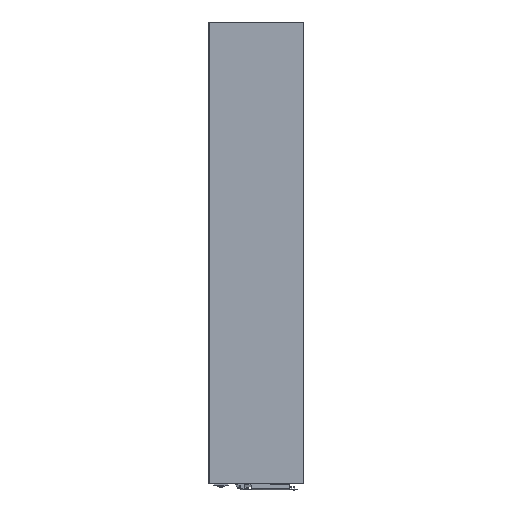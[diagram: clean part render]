
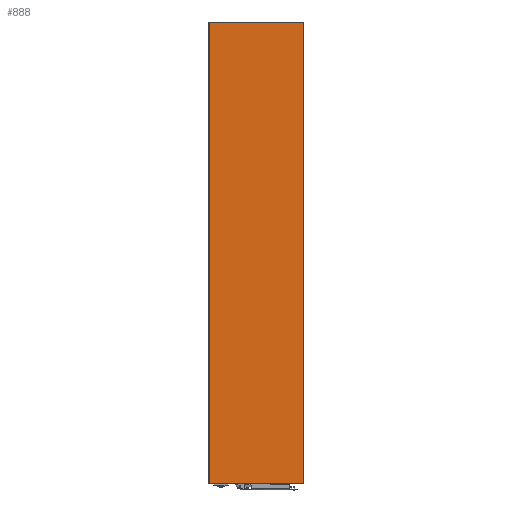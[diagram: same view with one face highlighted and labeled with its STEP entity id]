
A CAD part, left-side view. The second image highlights one B-rep face of the part: STEP entity #888.
In plain terms, the highlighted planar face has unit normal (-1, 0, 0).
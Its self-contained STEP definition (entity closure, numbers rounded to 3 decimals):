
#17 = CARTESIAN_POINT ( 'NONE',  ( 2.5, 91.5, 0. ) ) ;
#128 = VERTEX_POINT ( 'NONE', #3158 ) ;
#144 = ORIENTED_EDGE ( 'NONE', *, *, #1470, .T. ) ;
#179 = VECTOR ( 'NONE', #285, 1000. ) ;
#255 = LINE ( 'NONE', #1870, #179 ) ;
#285 = DIRECTION ( 'NONE',  ( 0., 0., -1. ) ) ;
#458 = FACE_OUTER_BOUND ( 'NONE', #2698, .T. ) ;
#498 = VERTEX_POINT ( 'NONE', #1838 ) ;
#552 = DIRECTION ( 'NONE',  ( 0., -1., 0. ) ) ;
#576 = PLANE ( 'NONE',  #2812 ) ;
#596 = CARTESIAN_POINT ( 'NONE',  ( 2.5, -29., 0. ) ) ;
#629 = DIRECTION ( 'NONE',  ( 1., 0., 0. ) ) ;
#873 = DIRECTION ( 'NONE',  ( 0., 1., 0. ) ) ;
#888 = ADVANCED_FACE ( 'NONE', ( #458 ), #576, .F. ) ;
#1050 = VECTOR ( 'NONE', #873, 1000. ) ;
#1104 = LINE ( 'NONE', #1984, #1050 ) ;
#1155 = ORIENTED_EDGE ( 'NONE', *, *, #2904, .T. ) ;
#1283 = VECTOR ( 'NONE', #3305, 1000. ) ;
#1311 = LINE ( 'NONE', #17, #1283 ) ;
#1330 = ORIENTED_EDGE ( 'NONE', *, *, #3034, .T. ) ;
#1470 = EDGE_CURVE ( 'NONE', #2281, #498, #3486, .T. ) ;
#1799 = CARTESIAN_POINT ( 'NONE',  ( 2.5, 91.5, -590. ) ) ;
#1838 = CARTESIAN_POINT ( 'NONE',  ( 2.5, -29., -590. ) ) ;
#1870 = CARTESIAN_POINT ( 'NONE',  ( 2.5, -29., 0. ) ) ;
#1951 = DIRECTION ( 'NONE',  ( 0., -1., 0. ) ) ;
#1984 = CARTESIAN_POINT ( 'NONE',  ( 2.5, -29., 0. ) ) ;
#2211 = VERTEX_POINT ( 'NONE', #3256 ) ;
#2281 = VERTEX_POINT ( 'NONE', #1799 ) ;
#2339 = ORIENTED_EDGE ( 'NONE', *, *, #3478, .F. ) ;
#2529 = CARTESIAN_POINT ( 'NONE',  ( 2.5, 91.9, -590. ) ) ;
#2698 = EDGE_LOOP ( 'NONE', ( #2339, #1330, #1155, #144 ) ) ;
#2812 = AXIS2_PLACEMENT_3D ( 'NONE', #596, #629, #552 ) ;
#2904 = EDGE_CURVE ( 'NONE', #2211, #2281, #1311, .T. ) ;
#3034 = EDGE_CURVE ( 'NONE', #128, #2211, #1104, .T. ) ;
#3158 = CARTESIAN_POINT ( 'NONE',  ( 2.5, -29., 0. ) ) ;
#3256 = CARTESIAN_POINT ( 'NONE',  ( 2.5, 91.5, 0. ) ) ;
#3305 = DIRECTION ( 'NONE',  ( 0., 0., -1. ) ) ;
#3470 = VECTOR ( 'NONE', #1951, 1000. ) ;
#3478 = EDGE_CURVE ( 'NONE', #128, #498, #255, .T. ) ;
#3486 = LINE ( 'NONE', #2529, #3470 ) ;
